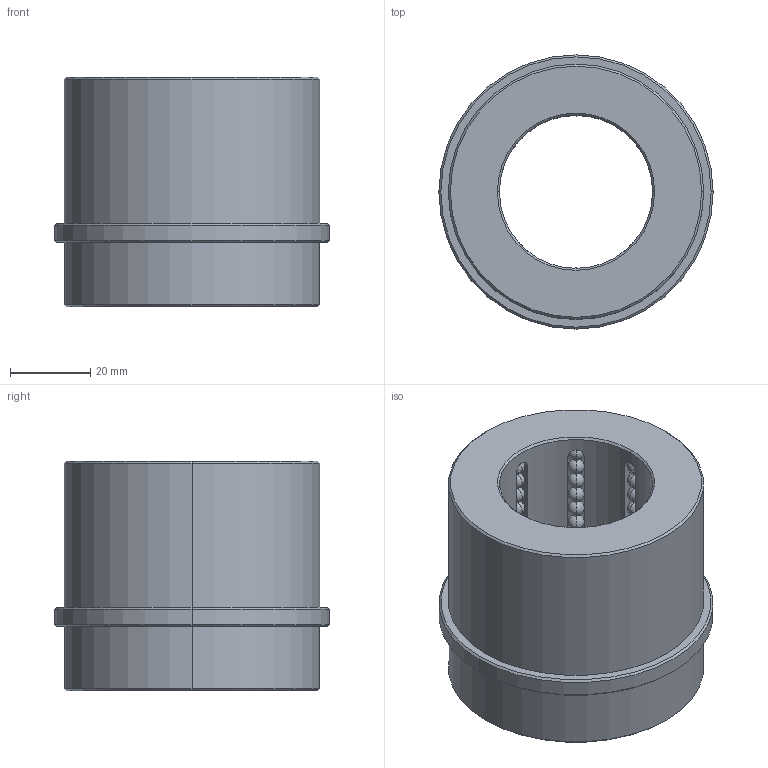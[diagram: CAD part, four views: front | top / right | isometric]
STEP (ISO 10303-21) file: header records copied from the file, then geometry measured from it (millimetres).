
FILE_DESCRIPTION((''),'2;1');
FILE_NAME('BGEB1500','2018-01-06T',('MANU'),(''),'PRO/ENGINEER BY PARAMETRIC TECHNOLOGY CORPORATION, 2012130','PRO/ENGINEER BY PARAMETRIC TECHNOLOGY CORPORATION, 2012130','');
FILE_SCHEMA(('CONFIG_CONTROL_DESIGN'));
Length unit declared in the file: millimetre
Products named in the file (1): BGEB1500
Bounding box: 68.25 x 68.25 x 57.15 mm (x, y, z)
Volume: 114968.6 mm3; surface area: 31210.8 mm2
Topology: 97 solids, 97 shells, 256 faces, 726 edges, 288 vertices
Faces by surface type: sphere 192, plane 28, cylinder 24, cone 12
Entity records: 5772 total; most frequent: CARTESIAN_POINT 1186, DIRECTION 1070, ORIENTED_EDGE 684, AXIS2_PLACEMENT_3D 492, EDGE_CURVE 342, VERTEX_POINT 288, EDGE_LOOP 266, FACE_OUTER_BOUND 256
